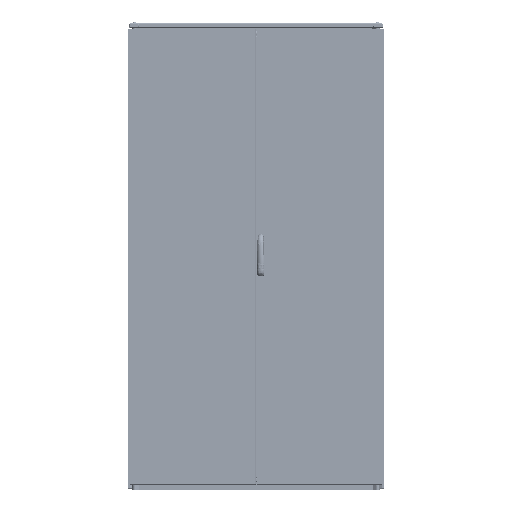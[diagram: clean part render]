
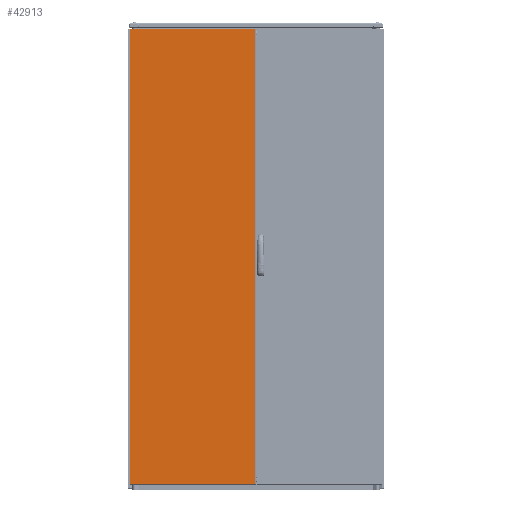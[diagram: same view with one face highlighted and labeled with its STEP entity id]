
A CAD part, top view. The second image highlights one B-rep face of the part: STEP entity #42913.
In plain terms, the highlighted planar face has unit normal (0, 0, 1).
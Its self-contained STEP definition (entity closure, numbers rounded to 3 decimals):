
#2060 = DIRECTION ( 'NONE',  ( 0., -1., 0. ) ) ;
#8429 = ORIENTED_EDGE ( 'NONE', *, *, #444099, .T. ) ;
#42913 = ADVANCED_FACE ( 'NONE', ( #130363 ), #276426, .F. ) ;
#53941 = CARTESIAN_POINT ( 'NONE',  ( 592., 2157., 19. ) ) ;
#69879 = VECTOR ( 'NONE', #107860, 1000. ) ;
#91709 = EDGE_CURVE ( 'NONE', #313502, #239789, #289886, .T. ) ;
#107860 = DIRECTION ( 'NONE',  ( -1., 0., 0. ) ) ;
#109332 = EDGE_LOOP ( 'NONE', ( #415856, #333520, #8429, #374267 ) ) ;
#130363 = FACE_OUTER_BOUND ( 'NONE', #109332, .T. ) ;
#150602 = VECTOR ( 'NONE', #415853, 1000. ) ;
#155704 = DIRECTION ( 'NONE',  ( 0., 1., 0. ) ) ;
#166794 = CARTESIAN_POINT ( 'NONE',  ( 0., 3., 19. ) ) ;
#172476 = AXIS2_PLACEMENT_3D ( 'NONE', #453696, #240531, #386558 ) ;
#181757 = LINE ( 'NONE', #327753, #257604 ) ;
#185355 = EDGE_CURVE ( 'NONE', #239789, #338354, #181757, .T. ) ;
#190463 = CARTESIAN_POINT ( 'NONE',  ( 592., 3., 19. ) ) ;
#193976 = CARTESIAN_POINT ( 'NONE',  ( 592., 2160., 19. ) ) ;
#224169 = EDGE_CURVE ( 'NONE', #439389, #313502, #263491, .T. ) ;
#236244 = LINE ( 'NONE', #166794, #150602 ) ;
#239789 = VERTEX_POINT ( 'NONE', #361655 ) ;
#240531 = DIRECTION ( 'NONE',  ( 0., 0., -1. ) ) ;
#257604 = VECTOR ( 'NONE', #2060, 1000. ) ;
#263491 = LINE ( 'NONE', #193976, #304465 ) ;
#276426 = PLANE ( 'NONE',  #172476 ) ;
#289886 = LINE ( 'NONE', #435891, #69879 ) ;
#304465 = VECTOR ( 'NONE', #155704, 1000. ) ;
#309122 = CARTESIAN_POINT ( 'NONE',  ( 2.001, 3., 19. ) ) ;
#313502 = VERTEX_POINT ( 'NONE', #53941 ) ;
#327753 = CARTESIAN_POINT ( 'NONE',  ( 2.001, 3., 19. ) ) ;
#333520 = ORIENTED_EDGE ( 'NONE', *, *, #185355, .T. ) ;
#338354 = VERTEX_POINT ( 'NONE', #309122 ) ;
#361655 = CARTESIAN_POINT ( 'NONE',  ( 2.001, 2157., 19. ) ) ;
#374267 = ORIENTED_EDGE ( 'NONE', *, *, #224169, .T. ) ;
#386558 = DIRECTION ( 'NONE',  ( -1., 0., 0. ) ) ;
#415853 = DIRECTION ( 'NONE',  ( 1., 0., 0. ) ) ;
#415856 = ORIENTED_EDGE ( 'NONE', *, *, #91709, .T. ) ;
#435891 = CARTESIAN_POINT ( 'NONE',  ( 0., 2157., 19. ) ) ;
#439389 = VERTEX_POINT ( 'NONE', #190463 ) ;
#444099 = EDGE_CURVE ( 'NONE', #338354, #439389, #236244, .T. ) ;
#453696 = CARTESIAN_POINT ( 'NONE',  ( 0., 2160., 19. ) ) ;
